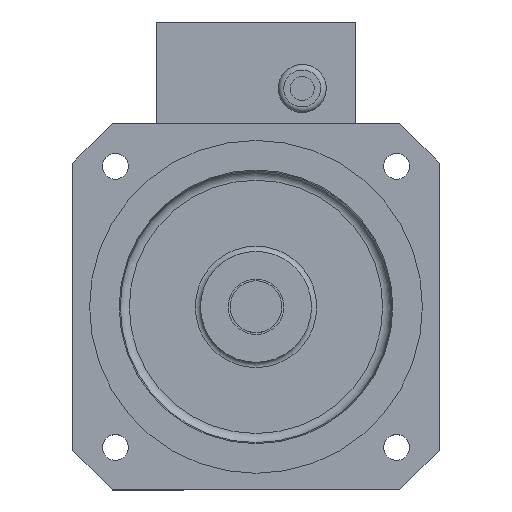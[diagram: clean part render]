
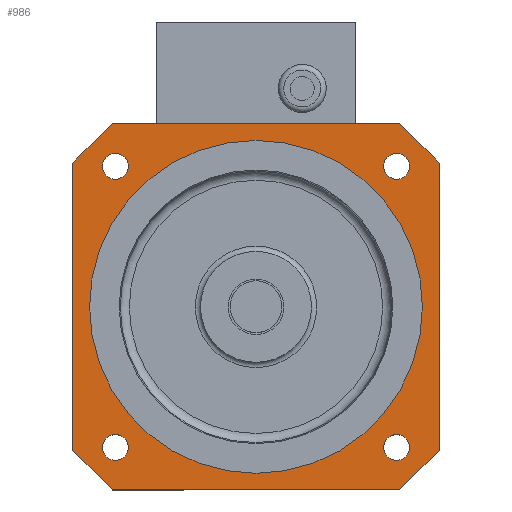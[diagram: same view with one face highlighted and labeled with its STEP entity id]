
A CAD part, top view. The second image highlights one B-rep face of the part: STEP entity #986.
In plain terms, the highlighted planar face has unit normal (0, 0, 1) as drawn and (0, 0, -1) by its records, which use the part's own axes.
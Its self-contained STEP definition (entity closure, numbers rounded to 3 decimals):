
#986=ADVANCED_FACE('',(#1553,#1554,#1555,#1556,#1557,#2026),#1414,.T.);
#1414=PLANE('',#13646);
#1553=FACE_BOUND('',#2683,.T.);
#1554=FACE_BOUND('',#2684,.T.);
#1555=FACE_BOUND('',#2685,.T.);
#1556=FACE_BOUND('',#2686,.T.);
#1557=FACE_BOUND('',#2687,.T.);
#2026=FACE_OUTER_BOUND('',#2688,.T.);
#2683=EDGE_LOOP('',(#6174));
#2684=EDGE_LOOP('',(#6175));
#2685=EDGE_LOOP('',(#6176));
#2686=EDGE_LOOP('',(#6177));
#2687=EDGE_LOOP('',(#6178));
#2688=EDGE_LOOP('',(#6179,#6180,#6181,#6182,#6183,#6184,#6185,#6186));
#3468=CIRCLE('',#13641,7.);
#3469=CIRCLE('',#13642,7.);
#3470=CIRCLE('',#13643,7.);
#3471=CIRCLE('',#13644,7.);
#3472=CIRCLE('',#13645,90.);
#6174=ORIENTED_EDGE('',*,*,#9913,.T.);
#6175=ORIENTED_EDGE('',*,*,#9914,.T.);
#6176=ORIENTED_EDGE('',*,*,#9915,.T.);
#6177=ORIENTED_EDGE('',*,*,#9916,.T.);
#6178=ORIENTED_EDGE('',*,*,#9917,.F.);
#6179=ORIENTED_EDGE('',*,*,#9918,.F.);
#6180=ORIENTED_EDGE('',*,*,#9919,.T.);
#6181=ORIENTED_EDGE('',*,*,#9904,.F.);
#6182=ORIENTED_EDGE('',*,*,#9920,.T.);
#6183=ORIENTED_EDGE('',*,*,#9908,.F.);
#6184=ORIENTED_EDGE('',*,*,#9921,.T.);
#6185=ORIENTED_EDGE('',*,*,#9911,.F.);
#6186=ORIENTED_EDGE('',*,*,#9922,.T.);
#8258=VERTEX_POINT('',#20533);
#8259=VERTEX_POINT('',#20534);
#8260=VERTEX_POINT('',#20539);
#8261=VERTEX_POINT('',#20541);
#8262=VERTEX_POINT('',#20545);
#8263=VERTEX_POINT('',#20547);
#8264=VERTEX_POINT('',#20551);
#8265=VERTEX_POINT('',#20553);
#8266=VERTEX_POINT('',#20555);
#8267=VERTEX_POINT('',#20557);
#8268=VERTEX_POINT('',#20559);
#8269=VERTEX_POINT('',#20561);
#8270=VERTEX_POINT('',#20562);
#9904=EDGE_CURVE('',#8258,#8259,#11270,.T.);
#9908=EDGE_CURVE('',#8260,#8261,#11274,.T.);
#9911=EDGE_CURVE('',#8262,#8263,#11277,.T.);
#9913=EDGE_CURVE('',#8264,#8264,#3468,.T.);
#9914=EDGE_CURVE('',#8265,#8265,#3469,.T.);
#9915=EDGE_CURVE('',#8266,#8266,#3470,.T.);
#9916=EDGE_CURVE('',#8267,#8267,#3471,.T.);
#9917=EDGE_CURVE('',#8268,#8268,#3472,.T.);
#9918=EDGE_CURVE('',#8269,#8270,#11279,.T.);
#9919=EDGE_CURVE('',#8269,#8259,#11280,.T.);
#9920=EDGE_CURVE('',#8258,#8261,#11281,.T.);
#9921=EDGE_CURVE('',#8260,#8263,#11282,.T.);
#9922=EDGE_CURVE('',#8262,#8270,#11283,.T.);
#11270=LINE('',#20532,#12378);
#11274=LINE('',#20540,#12382);
#11277=LINE('',#20546,#12385);
#11279=LINE('',#20560,#12387);
#11280=LINE('',#20563,#12388);
#11281=LINE('',#20564,#12389);
#11282=LINE('',#20565,#12390);
#11283=LINE('',#20566,#12391);
#12378=VECTOR('',#16692,1.);
#12382=VECTOR('',#16698,1.);
#12385=VECTOR('',#16703,1.);
#12387=VECTOR('',#16717,1.);
#12388=VECTOR('',#16718,1.);
#12389=VECTOR('',#16719,1.);
#12390=VECTOR('',#16720,1.);
#12391=VECTOR('',#16721,1.);
#13641=AXIS2_PLACEMENT_3D('',#20550,#16707,#16708);
#13642=AXIS2_PLACEMENT_3D('',#20552,#16709,#16710);
#13643=AXIS2_PLACEMENT_3D('',#20554,#16711,#16712);
#13644=AXIS2_PLACEMENT_3D('',#20556,#16713,#16714);
#13645=AXIS2_PLACEMENT_3D('',#20558,#16715,#16716);
#13646=AXIS2_PLACEMENT_3D('',#20567,#16722,#16723);
#16692=DIRECTION('',(1.,0.,0.));
#16698=DIRECTION('',(0.,-1.,0.));
#16703=DIRECTION('',(-1.,0.,0.));
#16707=DIRECTION('',(0.,0.,1.));
#16708=DIRECTION('',(0.,1.,0.));
#16709=DIRECTION('',(0.,0.,1.));
#16710=DIRECTION('',(-1.,0.,0.));
#16711=DIRECTION('',(0.,0.,1.));
#16712=DIRECTION('',(0.,-1.,0.));
#16713=DIRECTION('',(0.,0.,1.));
#16714=DIRECTION('',(1.,0.,0.));
#16715=DIRECTION('',(0.,0.,-1.));
#16716=DIRECTION('',(-1.,0.,0.));
#16717=DIRECTION('',(0.,1.,0.));
#16718=DIRECTION('',(-0.707,-0.707,0.));
#16719=DIRECTION('',(-0.707,0.707,0.));
#16720=DIRECTION('',(0.707,0.707,0.));
#16721=DIRECTION('',(0.707,-0.707,0.));
#16722=DIRECTION('',(0.,0.,-1.));
#16723=DIRECTION('',(-1.,0.,0.));
#20532=CARTESIAN_POINT('',(99.,0.,0.));
#20533=CARTESIAN_POINT('',(21.22,0.,0.));
#20534=CARTESIAN_POINT('',(176.78,0.,0.));
#20539=CARTESIAN_POINT('',(0.,176.78,0.));
#20540=CARTESIAN_POINT('',(0.,99.,0.));
#20541=CARTESIAN_POINT('',(0.,21.22,0.));
#20545=CARTESIAN_POINT('',(176.78,198.,0.));
#20546=CARTESIAN_POINT('',(99.,198.,0.));
#20547=CARTESIAN_POINT('',(21.22,198.,0.));
#20550=CARTESIAN_POINT('',(22.986,175.014,0.));
#20551=CARTESIAN_POINT('',(22.986,182.014,0.));
#20552=CARTESIAN_POINT('',(22.986,22.986,0.));
#20553=CARTESIAN_POINT('',(15.986,22.986,0.));
#20554=CARTESIAN_POINT('',(175.014,22.986,0.));
#20555=CARTESIAN_POINT('',(175.014,15.986,0.));
#20556=CARTESIAN_POINT('',(175.014,175.014,0.));
#20557=CARTESIAN_POINT('',(182.014,175.014,0.));
#20558=CARTESIAN_POINT('',(99.,99.,0.));
#20559=CARTESIAN_POINT('',(9.,99.,0.));
#20560=CARTESIAN_POINT('',(198.,99.,0.));
#20561=CARTESIAN_POINT('',(198.,21.22,0.));
#20562=CARTESIAN_POINT('',(198.,176.78,0.));
#20563=CARTESIAN_POINT('',(187.39,10.61,0.));
#20564=CARTESIAN_POINT('',(10.61,10.61,0.));
#20565=CARTESIAN_POINT('',(10.61,187.39,0.));
#20566=CARTESIAN_POINT('',(187.39,187.39,0.));
#20567=CARTESIAN_POINT('',(99.,99.,0.));
